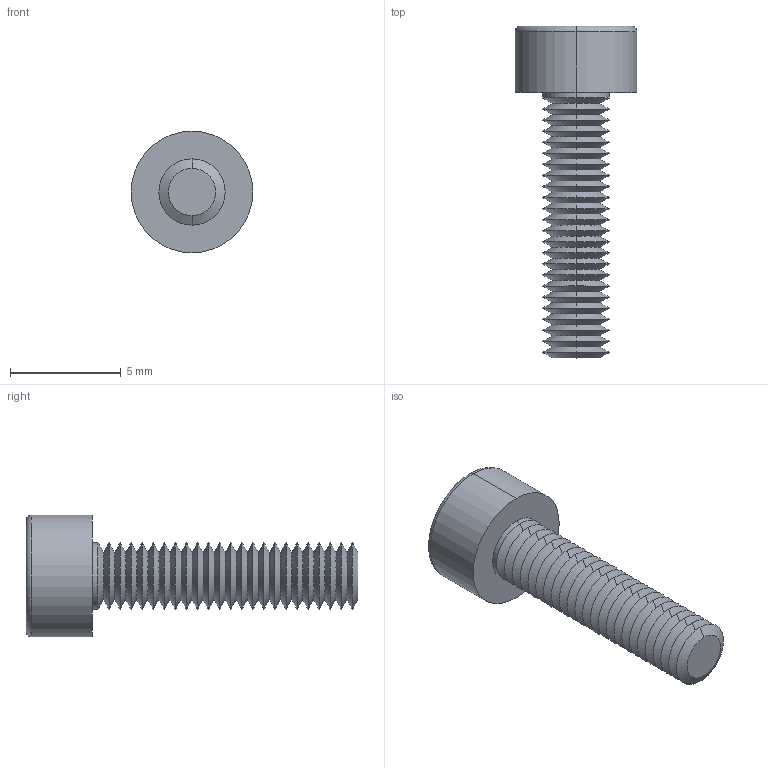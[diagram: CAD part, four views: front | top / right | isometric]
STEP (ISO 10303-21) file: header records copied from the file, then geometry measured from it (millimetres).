
FILE_DESCRIPTION (( 'STEP AP203' ), '1' );
FILE_NAME ('91N.030.0120.step', '2025-05-20T08:49:54', ( '' ), ( '' ), 'SwSTEP 2.0', 'SolidWorks 2019', '' );
FILE_SCHEMA (( 'CONFIG_CONTROL_DESIGN' ));
Length unit declared in the file: millimetre
Products named in the file (1): 91N.030.0120
Bounding box: 5.5 x 15 x 5.5 mm (x, y, z)
Volume: 119.5 mm3; surface area: 308 mm2
Topology: 1 solids, 1 shells, 124 faces, 247 edges, 125 vertices
Faces by surface type: cone 103, plane 15, cylinder 4, torus 2
Entity records: 3178 total; most frequent: DIRECTION 607, CARTESIAN_POINT 522, ORIENTED_EDGE 490, EDGE_CURVE 245, AXIS2_PLACEMENT_3D 244, EDGE_LOOP 126, VERTEX_POINT 125, ADVANCED_FACE 124
